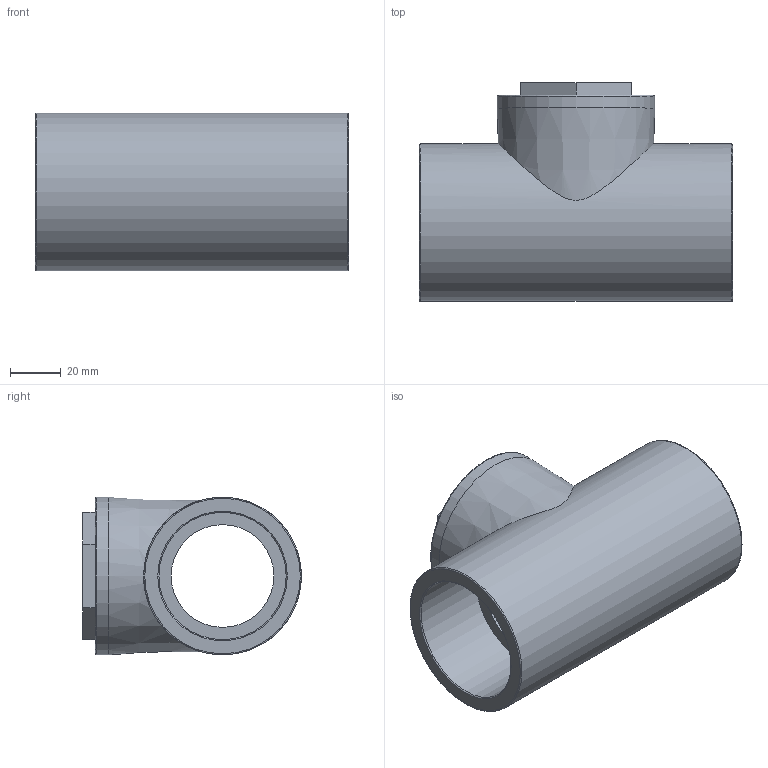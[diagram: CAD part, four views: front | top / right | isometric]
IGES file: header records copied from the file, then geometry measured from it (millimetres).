
Global section: file name: 050408050.ipt; native system: Autodesk Inventor 2015; preprocessor: unknown; author: KIM; date: 20171207.164550; units: millimetre
Bounding box: 123 x 86 x 62 mm (x, y, z)
Volume: 248970.7 mm3; surface area: 50574.8 mm2
Topology: 1 solids, 1 shells, 23 faces, 64 edges, 46 vertices
Faces by surface type: plane 12, revolution 8, cylinder 2, cone 1
Full cylindrical faces by diameter (mm): 62 x2
